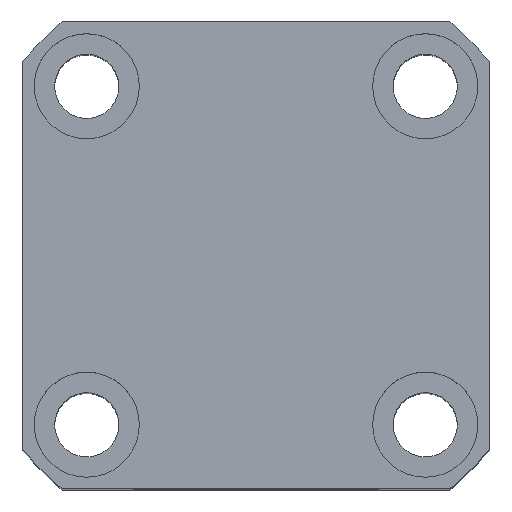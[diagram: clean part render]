
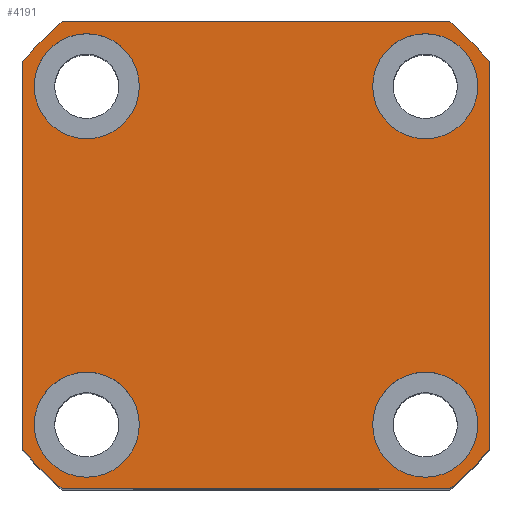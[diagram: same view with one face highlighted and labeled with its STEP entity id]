
A CAD part, top view. The second image highlights one B-rep face of the part: STEP entity #4191.
In plain terms, the highlighted planar face has unit normal (0, 0, 1).
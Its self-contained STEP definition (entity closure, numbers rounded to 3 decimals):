
#2141=PLANE('',#9356);
#2697=LINE('',#13610,#3340);
#2704=LINE('',#14264,#3347);
#2708=LINE('',#14279,#3351);
#2711=LINE('',#14288,#3354);
#3340=VECTOR('',#9720,1.);
#3347=VECTOR('',#9869,1.);
#3351=VECTOR('',#9887,1.);
#3354=VECTOR('',#9898,1.);
#4191=ADVANCED_FACE('',(#4718,#4719,#4720,#4721,#4722),#2141,.T.);
#4575=CIRCLE('',#9305,9.);
#4577=CIRCLE('',#9308,9.);
#4579=CIRCLE('',#9311,9.);
#4581=CIRCLE('',#9314,9.);
#4600=CIRCLE('',#9342,52.);
#4602=CIRCLE('',#9346,52.);
#4604=CIRCLE('',#9349,52.);
#4606=CIRCLE('',#9353,52.);
#4718=FACE_BOUND('',#4943,.T.);
#4719=FACE_BOUND('',#4944,.T.);
#4720=FACE_BOUND('',#4945,.T.);
#4721=FACE_BOUND('',#4946,.T.);
#4722=FACE_BOUND('',#4947,.T.);
#4943=EDGE_LOOP('',(#5583));
#4944=EDGE_LOOP('',(#5584));
#4945=EDGE_LOOP('',(#5585));
#4946=EDGE_LOOP('',(#5586));
#4947=EDGE_LOOP('',(#5587,#5588,#5589,#5590,#5591,#5592,#5593,#5594));
#5583=ORIENTED_EDGE('',*,*,#8125,.F.);
#5584=ORIENTED_EDGE('',*,*,#8127,.F.);
#5585=ORIENTED_EDGE('',*,*,#8129,.F.);
#5586=ORIENTED_EDGE('',*,*,#8131,.F.);
#5587=ORIENTED_EDGE('',*,*,#8151,.T.);
#5588=ORIENTED_EDGE('',*,*,#8155,.T.);
#5589=ORIENTED_EDGE('',*,*,#8157,.T.);
#5590=ORIENTED_EDGE('',*,*,#8063,.T.);
#5591=ORIENTED_EDGE('',*,*,#8160,.T.);
#5592=ORIENTED_EDGE('',*,*,#8163,.T.);
#5593=ORIENTED_EDGE('',*,*,#8166,.T.);
#5594=ORIENTED_EDGE('',*,*,#8168,.T.);
#7359=VERTEX_POINT('',#13609);
#7360=VERTEX_POINT('',#13611);
#7420=VERTEX_POINT('',#14192);
#7422=VERTEX_POINT('',#14197);
#7424=VERTEX_POINT('',#14202);
#7426=VERTEX_POINT('',#14207);
#7446=VERTEX_POINT('',#14255);
#7447=VERTEX_POINT('',#14257);
#7449=VERTEX_POINT('',#14263);
#7451=VERTEX_POINT('',#14272);
#7453=VERTEX_POINT('',#14278);
#7455=VERTEX_POINT('',#14284);
#8063=EDGE_CURVE('',#7360,#7359,#2697,.T.);
#8125=EDGE_CURVE('',#7420,#7420,#4575,.T.);
#8127=EDGE_CURVE('',#7422,#7422,#4577,.T.);
#8129=EDGE_CURVE('',#7424,#7424,#4579,.T.);
#8131=EDGE_CURVE('',#7426,#7426,#4581,.T.);
#8151=EDGE_CURVE('',#7447,#7446,#4600,.T.);
#8155=EDGE_CURVE('',#7446,#7449,#2704,.T.);
#8157=EDGE_CURVE('',#7449,#7360,#4602,.T.);
#8160=EDGE_CURVE('',#7359,#7451,#4604,.T.);
#8163=EDGE_CURVE('',#7451,#7453,#2708,.T.);
#8166=EDGE_CURVE('',#7453,#7455,#4606,.T.);
#8168=EDGE_CURVE('',#7455,#7447,#2711,.T.);
#9305=AXIS2_PLACEMENT_3D('',#14191,#9787,#9788);
#9308=AXIS2_PLACEMENT_3D('',#14196,#9793,#9794);
#9311=AXIS2_PLACEMENT_3D('',#14201,#9799,#9800);
#9314=AXIS2_PLACEMENT_3D('',#14206,#9805,#9806);
#9342=AXIS2_PLACEMENT_3D('',#14256,#9862,#9863);
#9346=AXIS2_PLACEMENT_3D('',#14267,#9874,#9875);
#9349=AXIS2_PLACEMENT_3D('',#14273,#9881,#9882);
#9353=AXIS2_PLACEMENT_3D('',#14285,#9893,#9894);
#9356=AXIS2_PLACEMENT_3D('',#14290,#9901,#9902);
#9720=DIRECTION('',(1.,0.,0.));
#9787=DIRECTION('',(0.,0.,1.));
#9788=DIRECTION('',(1.,0.,0.));
#9793=DIRECTION('',(0.,0.,1.));
#9794=DIRECTION('',(1.,0.,0.));
#9799=DIRECTION('',(0.,0.,1.));
#9800=DIRECTION('',(1.,0.,0.));
#9805=DIRECTION('',(0.,0.,1.));
#9806=DIRECTION('',(1.,0.,0.));
#9862=DIRECTION('',(0.,0.,1.));
#9863=DIRECTION('',(1.,0.,0.));
#9869=DIRECTION('',(0.,-1.,0.));
#9874=DIRECTION('',(0.,0.,1.));
#9875=DIRECTION('',(1.,0.,0.));
#9881=DIRECTION('',(0.,0.,1.));
#9882=DIRECTION('',(1.,0.,0.));
#9887=DIRECTION('',(0.,1.,0.));
#9893=DIRECTION('',(0.,0.,1.));
#9894=DIRECTION('',(1.,0.,0.));
#9898=DIRECTION('',(-1.,0.,0.));
#9901=DIRECTION('',(0.,0.,1.));
#9902=DIRECTION('',(-1.,0.,0.));
#13609=CARTESIAN_POINT('',(33.226,-40.,55.));
#13610=CARTESIAN_POINT('',(-33.226,-40.,55.));
#13611=CARTESIAN_POINT('',(-33.226,-40.,55.));
#14191=CARTESIAN_POINT('',(29.,-29.,55.));
#14192=CARTESIAN_POINT('',(38.,-29.,55.));
#14196=CARTESIAN_POINT('',(-29.,-29.,55.));
#14197=CARTESIAN_POINT('',(-20.,-29.,55.));
#14201=CARTESIAN_POINT('',(-29.,29.,55.));
#14202=CARTESIAN_POINT('',(-20.,29.,55.));
#14206=CARTESIAN_POINT('',(29.,29.,55.));
#14207=CARTESIAN_POINT('',(38.,29.,55.));
#14255=CARTESIAN_POINT('',(-40.,33.226,55.));
#14256=CARTESIAN_POINT('',(0.,0.,55.));
#14257=CARTESIAN_POINT('',(-33.226,40.,55.));
#14263=CARTESIAN_POINT('',(-40.,-33.226,55.));
#14264=CARTESIAN_POINT('',(-40.,33.226,55.));
#14267=CARTESIAN_POINT('',(0.,0.,55.));
#14272=CARTESIAN_POINT('',(40.,-33.226,55.));
#14273=CARTESIAN_POINT('',(0.,0.,55.));
#14278=CARTESIAN_POINT('',(40.,33.226,55.));
#14279=CARTESIAN_POINT('',(40.,33.226,55.));
#14284=CARTESIAN_POINT('',(33.226,40.,55.));
#14285=CARTESIAN_POINT('',(0.,0.,55.));
#14288=CARTESIAN_POINT('',(-33.226,40.,55.));
#14290=CARTESIAN_POINT('',(0.,0.,55.));
